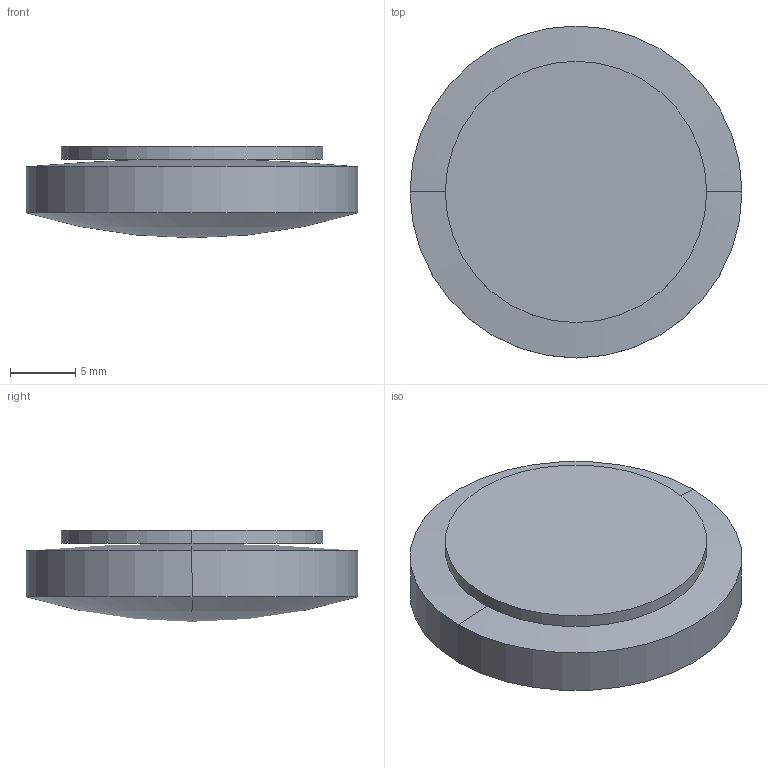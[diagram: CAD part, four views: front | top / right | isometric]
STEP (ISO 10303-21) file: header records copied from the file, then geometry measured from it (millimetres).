
FILE_DESCRIPTION(('STEP AP214'),'1');
FILE_NAME('LLR-25-80.STEP','2020-03-09T17:41:56',(' '),(' '),'Spatial InterOp 3D',' ',' ');
FILE_SCHEMA(('AUTOMOTIVE_DESIGN { 1 0 10303 214 1 1 1 1 }'));
Length unit declared in the file: millimetre
Products named in the file (1): 1
Bounding box: 25.4 x 25.4 x 7 mm (x, y, z)
Volume: 2730.3 mm3; surface area: 1998.1 mm2
Topology: 2 solids, 2 shells, 10 faces, 20 edges, 10 vertices
Faces by surface type: sphere 4, cylinder 4, plane 2
Entity records: 255 total; most frequent: DIRECTION 52, CARTESIAN_POINT 38, ORIENTED_EDGE 32, AXIS2_PLACEMENT_3D 24, EDGE_CURVE 16, CIRCLE 12, ADVANCED_FACE 10, FACE_OUTER_BOUND 10
